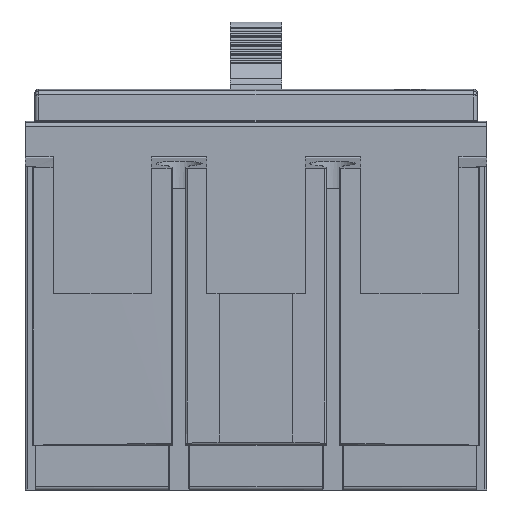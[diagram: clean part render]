
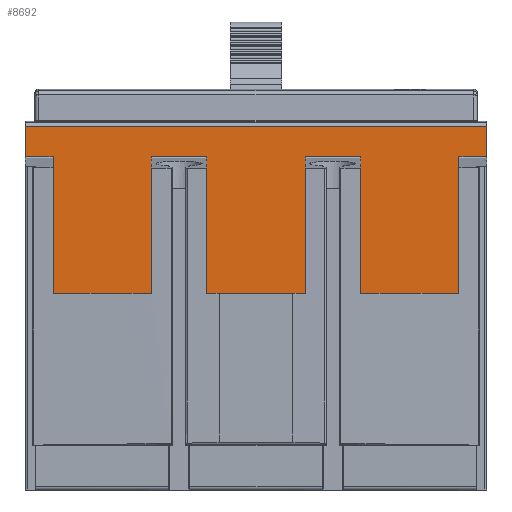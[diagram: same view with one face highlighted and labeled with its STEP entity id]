
A CAD part, front view. The second image highlights one B-rep face of the part: STEP entity #8692.
In plain terms, the highlighted planar face has unit normal (0, -1, 0).
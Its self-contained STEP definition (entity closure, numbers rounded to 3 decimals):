
#196 = CARTESIAN_POINT ( 'NONE',  ( -33., -32.764, 42.185 ) ) ;
#636 = CARTESIAN_POINT ( 'NONE',  ( -8., -32.764, 64.112 ) ) ;
#695 = DIRECTION ( 'NONE',  ( -1., 0., 0. ) ) ;
#707 = CARTESIAN_POINT ( 'NONE',  ( -8., -32.764, 20. ) ) ;
#790 = ORIENTED_EDGE ( 'NONE', *, *, #9020, .F. ) ;
#853 = CARTESIAN_POINT ( 'NONE',  ( -8., -32.764, 20. ) ) ;
#902 = VECTOR ( 'NONE', #13169, 1000. ) ;
#967 = LINE ( 'NONE', #13416, #4628 ) ;
#1093 = DIRECTION ( 'NONE',  ( -1., 0., 0. ) ) ;
#1175 = VECTOR ( 'NONE', #10693, 1000. ) ;
#1305 = LINE ( 'NONE', #10962, #4644 ) ;
#1332 = PLANE ( 'NONE',  #8355 ) ;
#1378 = ORIENTED_EDGE ( 'NONE', *, *, #2774, .F. ) ;
#1388 = VECTOR ( 'NONE', #8257, 1000. ) ;
#1405 = LINE ( 'NONE', #12625, #8111 ) ;
#1429 = ORIENTED_EDGE ( 'NONE', *, *, #10200, .T. ) ;
#1608 = DIRECTION ( 'NONE',  ( 0., 0., -1. ) ) ;
#1759 = VERTEX_POINT ( 'NONE', #6522 ) ;
#1766 = ORIENTED_EDGE ( 'NONE', *, *, #2234, .F. ) ;
#1797 = EDGE_CURVE ( 'NONE', #2184, #8144, #6020, .T. ) ;
#2021 = VERTEX_POINT ( 'NONE', #9956 ) ;
#2110 = EDGE_CURVE ( 'NONE', #12323, #2636, #1305, .T. ) ;
#2184 = VERTEX_POINT ( 'NONE', #6909 ) ;
#2213 = CARTESIAN_POINT ( 'NONE',  ( 37.5, -32.764, 42.185 ) ) ;
#2230 = VERTEX_POINT ( 'NONE', #2646 ) ;
#2234 = EDGE_CURVE ( 'NONE', #8103, #13038, #7353, .T. ) ;
#2389 = ORIENTED_EDGE ( 'NONE', *, *, #4908, .T. ) ;
#2636 = VERTEX_POINT ( 'NONE', #11267 ) ;
#2646 = CARTESIAN_POINT ( 'NONE',  ( 17., -32.764, 20. ) ) ;
#2774 = EDGE_CURVE ( 'NONE', #4626, #8144, #967, .T. ) ;
#2794 = DIRECTION ( 'NONE',  ( 0., 0., -1. ) ) ;
#2910 = DIRECTION ( 'NONE',  ( 0., 0., -1. ) ) ;
#3256 = CARTESIAN_POINT ( 'NONE',  ( -33., -32.764, 64.112 ) ) ;
#3307 = VECTOR ( 'NONE', #695, 1000. ) ;
#3410 = VERTEX_POINT ( 'NONE', #11935 ) ;
#3748 = EDGE_CURVE ( 'NONE', #2230, #2636, #8133, .T. ) ;
#3749 = VECTOR ( 'NONE', #11526, 1000. ) ;
#3768 = VERTEX_POINT ( 'NONE', #10102 ) ;
#4346 = DIRECTION ( 'NONE',  ( -1., 0., 0. ) ) ;
#4430 = DIRECTION ( 'NONE',  ( 0., 0., 1. ) ) ;
#4582 = CARTESIAN_POINT ( 'NONE',  ( -37.5, -32.764, 47.112 ) ) ;
#4626 = VERTEX_POINT ( 'NONE', #8037 ) ;
#4628 = VECTOR ( 'NONE', #1608, 1000. ) ;
#4644 = VECTOR ( 'NONE', #7795, 1000. ) ;
#4738 = VERTEX_POINT ( 'NONE', #5874 ) ;
#4846 = DIRECTION ( 'NONE',  ( 1., 0., 0. ) ) ;
#4892 = CARTESIAN_POINT ( 'NONE',  ( 8., -32.764, 64.112 ) ) ;
#4908 = EDGE_CURVE ( 'NONE', #3410, #11121, #6593, .T. ) ;
#5022 = ORIENTED_EDGE ( 'NONE', *, *, #2110, .F. ) ;
#5355 = VECTOR ( 'NONE', #13712, 1000. ) ;
#5519 = LINE ( 'NONE', #3256, #1175 ) ;
#5597 = EDGE_CURVE ( 'NONE', #1759, #3768, #12724, .T. ) ;
#5807 = LINE ( 'NONE', #2213, #6156 ) ;
#5808 = LINE ( 'NONE', #4892, #10826 ) ;
#5874 = CARTESIAN_POINT ( 'NONE',  ( -8., -32.764, 42.185 ) ) ;
#5900 = VERTEX_POINT ( 'NONE', #9639 ) ;
#5940 = EDGE_CURVE ( 'NONE', #8103, #2184, #5519, .T. ) ;
#5984 = FACE_OUTER_BOUND ( 'NONE', #11974, .T. ) ;
#6020 = LINE ( 'NONE', #9879, #13533 ) ;
#6114 = CARTESIAN_POINT ( 'NONE',  ( 17., -32.764, 64.112 ) ) ;
#6156 = VECTOR ( 'NONE', #4346, 1000. ) ;
#6211 = CARTESIAN_POINT ( 'NONE',  ( 37.5, -32.764, 47.112 ) ) ;
#6254 = LINE ( 'NONE', #6114, #1388 ) ;
#6432 = EDGE_CURVE ( 'NONE', #3410, #5900, #8195, .T. ) ;
#6522 = CARTESIAN_POINT ( 'NONE',  ( 17., -32.764, 42.185 ) ) ;
#6593 = LINE ( 'NONE', #6211, #3749 ) ;
#6909 = CARTESIAN_POINT ( 'NONE',  ( -33., -32.764, 20. ) ) ;
#7255 = DIRECTION ( 'NONE',  ( 0., 0., -1. ) ) ;
#7353 = LINE ( 'NONE', #11424, #3307 ) ;
#7509 = CARTESIAN_POINT ( 'NONE',  ( 37.5, -32.764, 42.185 ) ) ;
#7562 = ORIENTED_EDGE ( 'NONE', *, *, #5597, .F. ) ;
#7795 = DIRECTION ( 'NONE',  ( 0., 0., -1. ) ) ;
#8037 = CARTESIAN_POINT ( 'NONE',  ( -17., -32.764, 42.185 ) ) ;
#8103 = VERTEX_POINT ( 'NONE', #196 ) ;
#8111 = VECTOR ( 'NONE', #7255, 1000. ) ;
#8133 = LINE ( 'NONE', #13592, #8809 ) ;
#8144 = VERTEX_POINT ( 'NONE', #9835 ) ;
#8182 = EDGE_CURVE ( 'NONE', #4738, #4626, #5807, .T. ) ;
#8195 = LINE ( 'NONE', #11564, #5355 ) ;
#8257 = DIRECTION ( 'NONE',  ( 0., 0., -1. ) ) ;
#8269 = ORIENTED_EDGE ( 'NONE', *, *, #8182, .F. ) ;
#8355 = AXIS2_PLACEMENT_3D ( 'NONE', #11901, #10921, #4430 ) ;
#8554 = VERTEX_POINT ( 'NONE', #853 ) ;
#8692 = ADVANCED_FACE ( 'NONE', ( #5984 ), #1332, .F. ) ;
#8809 = VECTOR ( 'NONE', #12238, 1000. ) ;
#9020 = EDGE_CURVE ( 'NONE', #3768, #2021, #5808, .T. ) ;
#9246 = VECTOR ( 'NONE', #4846, 1000. ) ;
#9491 = ORIENTED_EDGE ( 'NONE', *, *, #1797, .T. ) ;
#9529 = EDGE_CURVE ( 'NONE', #4738, #8554, #13641, .T. ) ;
#9621 = ORIENTED_EDGE ( 'NONE', *, *, #9529, .T. ) ;
#9639 = CARTESIAN_POINT ( 'NONE',  ( 37.5, -32.764, 42.185 ) ) ;
#9653 = VECTOR ( 'NONE', #2910, 1000. ) ;
#9835 = CARTESIAN_POINT ( 'NONE',  ( -17., -32.764, 20. ) ) ;
#9879 = CARTESIAN_POINT ( 'NONE',  ( -33., -32.764, 20. ) ) ;
#9891 = VECTOR ( 'NONE', #1093, 1000. ) ;
#9956 = CARTESIAN_POINT ( 'NONE',  ( 8., -32.764, 20. ) ) ;
#10085 = ORIENTED_EDGE ( 'NONE', *, *, #5940, .T. ) ;
#10102 = CARTESIAN_POINT ( 'NONE',  ( 8., -32.764, 42.185 ) ) ;
#10200 = EDGE_CURVE ( 'NONE', #11121, #13038, #1405, .T. ) ;
#10392 = ORIENTED_EDGE ( 'NONE', *, *, #10837, .T. ) ;
#10693 = DIRECTION ( 'NONE',  ( 0., 0., -1. ) ) ;
#10826 = VECTOR ( 'NONE', #2794, 1000. ) ;
#10837 = EDGE_CURVE ( 'NONE', #1759, #2230, #6254, .T. ) ;
#10849 = DIRECTION ( 'NONE',  ( 1., 0., 0. ) ) ;
#10921 = DIRECTION ( 'NONE',  ( 0., 1., 0. ) ) ;
#10938 = ORIENTED_EDGE ( 'NONE', *, *, #3748, .T. ) ;
#10962 = CARTESIAN_POINT ( 'NONE',  ( 33., -32.764, 64.112 ) ) ;
#11079 = EDGE_CURVE ( 'NONE', #5900, #12323, #11766, .T. ) ;
#11121 = VERTEX_POINT ( 'NONE', #4582 ) ;
#11181 = CARTESIAN_POINT ( 'NONE',  ( -37.5, -32.764, 42.185 ) ) ;
#11267 = CARTESIAN_POINT ( 'NONE',  ( 33., -32.764, 20. ) ) ;
#11424 = CARTESIAN_POINT ( 'NONE',  ( 37.5, -32.764, 42.185 ) ) ;
#11526 = DIRECTION ( 'NONE',  ( -1., 0., 0. ) ) ;
#11564 = CARTESIAN_POINT ( 'NONE',  ( 37.5, -32.764, 0. ) ) ;
#11605 = ORIENTED_EDGE ( 'NONE', *, *, #11079, .F. ) ;
#11734 = EDGE_CURVE ( 'NONE', #8554, #2021, #11899, .T. ) ;
#11766 = LINE ( 'NONE', #12116, #902 ) ;
#11899 = LINE ( 'NONE', #707, #9246 ) ;
#11901 = CARTESIAN_POINT ( 'NONE',  ( 37.5, -32.764, 0. ) ) ;
#11935 = CARTESIAN_POINT ( 'NONE',  ( 37.5, -32.764, 47.112 ) ) ;
#11974 = EDGE_LOOP ( 'NONE', ( #1766, #10085, #9491, #1378, #8269, #9621, #13742, #790, #7562, #10392, #10938, #5022, #11605, #12217, #2389, #1429 ) ) ;
#12116 = CARTESIAN_POINT ( 'NONE',  ( 37.5, -32.764, 42.185 ) ) ;
#12217 = ORIENTED_EDGE ( 'NONE', *, *, #6432, .F. ) ;
#12238 = DIRECTION ( 'NONE',  ( 1., 0., 0. ) ) ;
#12323 = VERTEX_POINT ( 'NONE', #12955 ) ;
#12625 = CARTESIAN_POINT ( 'NONE',  ( -37.5, -32.764, 0. ) ) ;
#12724 = LINE ( 'NONE', #7509, #9891 ) ;
#12955 = CARTESIAN_POINT ( 'NONE',  ( 33., -32.764, 42.185 ) ) ;
#13038 = VERTEX_POINT ( 'NONE', #11181 ) ;
#13169 = DIRECTION ( 'NONE',  ( -1., 0., 0. ) ) ;
#13416 = CARTESIAN_POINT ( 'NONE',  ( -17., -32.764, 64.112 ) ) ;
#13533 = VECTOR ( 'NONE', #10849, 1000. ) ;
#13592 = CARTESIAN_POINT ( 'NONE',  ( 33., -32.764, 20. ) ) ;
#13641 = LINE ( 'NONE', #636, #9653 ) ;
#13712 = DIRECTION ( 'NONE',  ( 0., 0., -1. ) ) ;
#13742 = ORIENTED_EDGE ( 'NONE', *, *, #11734, .T. ) ;
